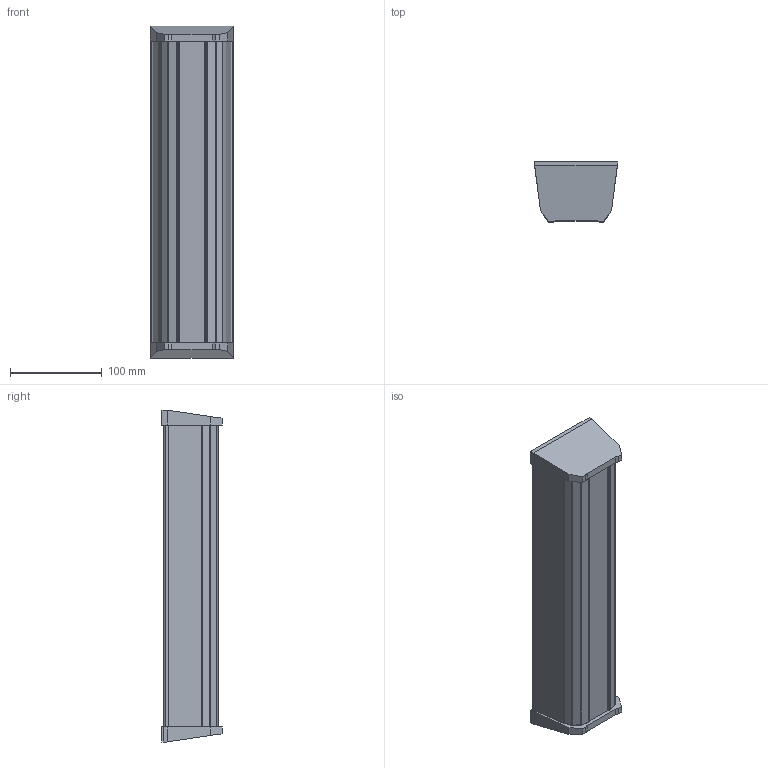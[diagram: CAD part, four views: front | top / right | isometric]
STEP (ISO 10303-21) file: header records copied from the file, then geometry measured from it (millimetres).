
FILE_DESCRIPTION (( 'STEP AP214' ), '1' );
FILE_NAME ('Besteckschale NL360 L362.step', '2010-09-21T13:13:27', ( 'grass' ), ( '' ), 'SwSTEP 2.0', 'SolidWorks 2010', '' );
FILE_SCHEMA (( 'AUTOMOTIVE_DESIGN' ));
Length unit declared in the file: millimetre
Products named in the file (1): Besteckschale NL360 L362
Bounding box: 90.5 x 65.5 x 362 mm (x, y, z)
Volume: 78645.4 mm3; surface area: 152654.2 mm2
Topology: 1 solids, 1 shells, 112 faces, 324 edges, 216 vertices
Faces by surface type: plane 80, cylinder 32
Entity records: 3702 total; most frequent: CARTESIAN_POINT 677, ORIENTED_EDGE 648, DIRECTION 602, EDGE_CURVE 324, VECTOR 256, LINE 256, VERTEX_POINT 216, AXIS2_PLACEMENT_3D 173
